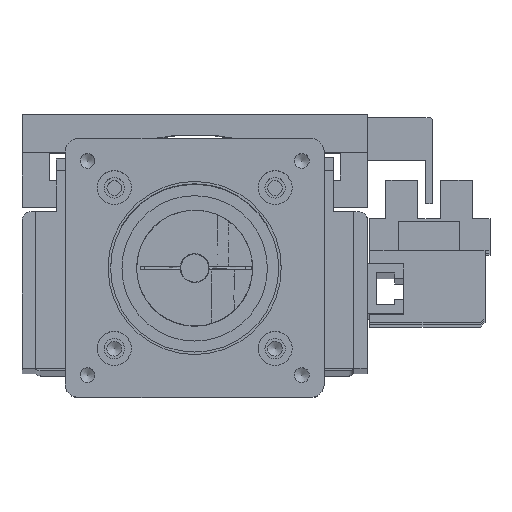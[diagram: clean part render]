
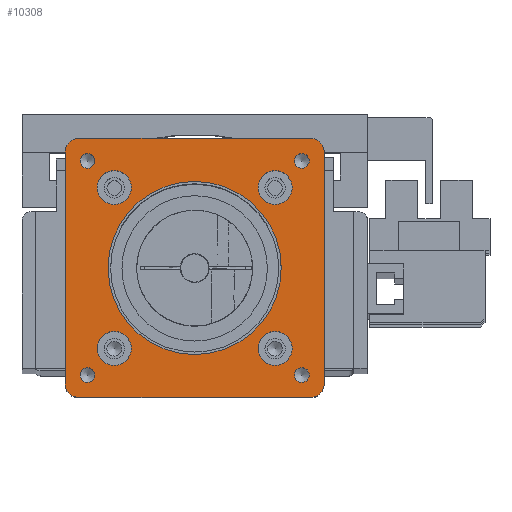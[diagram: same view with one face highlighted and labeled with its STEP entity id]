
A CAD part, top view. The second image highlights one B-rep face of the part: STEP entity #10308.
In plain terms, the highlighted planar face has unit normal (0, 0, 1).
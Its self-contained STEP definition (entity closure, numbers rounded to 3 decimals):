
#9948=CARTESIAN_POINT('',(53.691,4.93,0.0));
#9949=VERTEX_POINT('',#9948);
#9950=CARTESIAN_POINT('',(52.07,4.93,0.0));
#9951=DIRECTION('',(0.0,0.0,-1.0));
#9952=DIRECTION('',(1.0,0.0,0.0));
#9953=AXIS2_PLACEMENT_3D('',#9950,#9951,#9952);
#9954=CIRCLE('',#9953,1.621);
#9955=EDGE_CURVE('',#9949,#9949,#9954,.T.);
#9985=CARTESIAN_POINT('',(6.551,52.07,0.0));
#9986=VERTEX_POINT('',#9985);
#9987=CARTESIAN_POINT('',(4.93,52.07,0.0));
#9988=DIRECTION('',(0.0,0.0,-1.0));
#9989=DIRECTION('',(1.0,0.0,0.0));
#9990=AXIS2_PLACEMENT_3D('',#9987,#9988,#9989);
#9991=CIRCLE('',#9990,1.621);
#9992=EDGE_CURVE('',#9986,#9986,#9991,.T.);
#10022=CARTESIAN_POINT('',(53.691,52.07,0.0));
#10023=VERTEX_POINT('',#10022);
#10024=CARTESIAN_POINT('',(52.07,52.07,0.0));
#10025=DIRECTION('',(0.0,0.0,-1.0));
#10026=DIRECTION('',(1.0,0.0,0.0));
#10027=AXIS2_PLACEMENT_3D('',#10024,#10025,#10026);
#10028=CIRCLE('',#10027,1.621);
#10029=EDGE_CURVE('',#10023,#10023,#10028,.T.);
#10059=CARTESIAN_POINT('',(6.551,4.93,0.0));
#10060=VERTEX_POINT('',#10059);
#10061=CARTESIAN_POINT('',(4.93,4.93,0.0));
#10062=DIRECTION('',(0.0,0.0,-1.0));
#10063=DIRECTION('',(1.0,0.0,0.0));
#10064=AXIS2_PLACEMENT_3D('',#10061,#10062,#10063);
#10065=CIRCLE('',#10064,1.621);
#10066=EDGE_CURVE('',#10060,#10060,#10065,.T.);
#10090=CARTESIAN_POINT('',(0.0,54.0,0.0));
#10091=VERTEX_POINT('',#10090);
#10098=CARTESIAN_POINT('',(3.,57.0,0.0));
#10099=VERTEX_POINT('',#10098);
#10100=CARTESIAN_POINT('',(3.,54.0,0.0));
#10101=DIRECTION('',(0.0,0.0,-1.));
#10102=DIRECTION('',(-0.707,0.707,0.0));
#10103=AXIS2_PLACEMENT_3D('',#10100,#10101,#10102);
#10104=CIRCLE('',#10103,3.);
#10105=EDGE_CURVE('',#10091,#10099,#10104,.T.);
#10122=CARTESIAN_POINT('',(54.,57.,0.0));
#10123=VERTEX_POINT('',#10122);
#10124=CARTESIAN_POINT('',(54.,57.,0.0));
#10125=DIRECTION('',(-1.0,0.0,0.0));
#10126=VECTOR('',#10125,51.);
#10127=LINE('',#10124,#10126);
#10128=EDGE_CURVE('',#10123,#10099,#10127,.T.);
#10183=CARTESIAN_POINT('',(28.5,28.5,0.0));
#10184=DIRECTION('',(0.0,0.0,1.0));
#10185=DIRECTION('',(1.0,0.0,0.0));
#10186=AXIS2_PLACEMENT_3D('',#10183,#10184,#10185);
#10187=PLANE('',#10186);
#10188=ORIENTED_EDGE('',*,*,#10105,.F.);
#10189=CARTESIAN_POINT('',(0.0,3.,0.0));
#10190=VERTEX_POINT('',#10189);
#10191=CARTESIAN_POINT('',(0.0,54.0,0.0));
#10192=DIRECTION('',(0.0,-1.0,0.0));
#10193=VECTOR('',#10192,51.0);
#10194=LINE('',#10191,#10193);
#10195=EDGE_CURVE('',#10091,#10190,#10194,.T.);
#10196=ORIENTED_EDGE('',*,*,#10195,.T.);
#10197=CARTESIAN_POINT('',(3.,0.0,0.0));
#10198=VERTEX_POINT('',#10197);
#10199=CARTESIAN_POINT('',(3.,3.,0.0));
#10200=DIRECTION('',(0.0,0.0,-1.));
#10201=DIRECTION('',(-0.707,-0.707,0.0));
#10202=AXIS2_PLACEMENT_3D('',#10199,#10200,#10201);
#10203=CIRCLE('',#10202,3.);
#10204=EDGE_CURVE('',#10198,#10190,#10203,.T.);
#10205=ORIENTED_EDGE('',*,*,#10204,.F.);
#10206=CARTESIAN_POINT('',(54.0,0.0,0.0));
#10207=VERTEX_POINT('',#10206);
#10208=CARTESIAN_POINT('',(3.,0.0,0.0));
#10209=DIRECTION('',(1.0,0.0,0.0));
#10210=VECTOR('',#10209,51.0);
#10211=LINE('',#10208,#10210);
#10212=EDGE_CURVE('',#10198,#10207,#10211,.T.);
#10213=ORIENTED_EDGE('',*,*,#10212,.T.);
#10214=CARTESIAN_POINT('',(57.0,3.,0.0));
#10215=VERTEX_POINT('',#10214);
#10216=CARTESIAN_POINT('',(54.0,3.,0.0));
#10217=DIRECTION('',(0.0,0.0,-1.));
#10218=DIRECTION('',(0.707,-0.707,0.0));
#10219=AXIS2_PLACEMENT_3D('',#10216,#10217,#10218);
#10220=CIRCLE('',#10219,3.);
#10221=EDGE_CURVE('',#10215,#10207,#10220,.T.);
#10222=ORIENTED_EDGE('',*,*,#10221,.F.);
#10223=CARTESIAN_POINT('',(57.,54.,0.0));
#10224=VERTEX_POINT('',#10223);
#10225=CARTESIAN_POINT('',(57.0,3.,0.0));
#10226=DIRECTION('',(0.0,1.0,0.0));
#10227=VECTOR('',#10226,51.);
#10228=LINE('',#10225,#10227);
#10229=EDGE_CURVE('',#10215,#10224,#10228,.T.);
#10230=ORIENTED_EDGE('',*,*,#10229,.T.);
#10231=CARTESIAN_POINT('',(54.,54.,0.0));
#10232=DIRECTION('',(0.0,0.0,-1.));
#10233=DIRECTION('',(0.707,0.707,0.0));
#10234=AXIS2_PLACEMENT_3D('',#10231,#10232,#10233);
#10235=CIRCLE('',#10234,3.);
#10236=EDGE_CURVE('',#10123,#10224,#10235,.T.);
#10237=ORIENTED_EDGE('',*,*,#10236,.F.);
#10238=ORIENTED_EDGE('',*,*,#10128,.T.);
#10239=EDGE_LOOP('',(#10188,#10196,#10205,#10213,#10222,#10230,#10237,#10238));
#10240=FACE_OUTER_BOUND('',#10239,.T.);
#10241=ORIENTED_EDGE('',*,*,#9955,.T.);
#10242=EDGE_LOOP('',(#10241));
#10243=FACE_BOUND('',#10242,.T.);
#10244=ORIENTED_EDGE('',*,*,#9992,.T.);
#10245=EDGE_LOOP('',(#10244));
#10246=FACE_BOUND('',#10245,.T.);
#10247=ORIENTED_EDGE('',*,*,#10029,.T.);
#10248=EDGE_LOOP('',(#10247));
#10249=FACE_BOUND('',#10248,.T.);
#10250=ORIENTED_EDGE('',*,*,#10066,.T.);
#10251=EDGE_LOOP('',(#10250));
#10252=FACE_BOUND('',#10251,.T.);
#10253=CARTESIAN_POINT('',(49.95,10.8,0.0));
#10254=VERTEX_POINT('',#10253);
#10255=CARTESIAN_POINT('',(46.2,10.8,0.0));
#10256=DIRECTION('',(0.0,0.0,-1.0));
#10257=DIRECTION('',(1.0,0.0,0.0));
#10258=AXIS2_PLACEMENT_3D('',#10255,#10256,#10257);
#10259=CIRCLE('',#10258,3.75);
#10260=EDGE_CURVE('',#10254,#10254,#10259,.T.);
#10261=ORIENTED_EDGE('',*,*,#10260,.T.);
#10262=EDGE_LOOP('',(#10261));
#10263=FACE_BOUND('',#10262,.T.);
#10264=CARTESIAN_POINT('',(14.55,46.2,0.0));
#10265=VERTEX_POINT('',#10264);
#10266=CARTESIAN_POINT('',(10.8,46.2,0.0));
#10267=DIRECTION('',(0.0,0.0,-1.0));
#10268=DIRECTION('',(1.0,0.0,0.0));
#10269=AXIS2_PLACEMENT_3D('',#10266,#10267,#10268);
#10270=CIRCLE('',#10269,3.75);
#10271=EDGE_CURVE('',#10265,#10265,#10270,.T.);
#10272=ORIENTED_EDGE('',*,*,#10271,.T.);
#10273=EDGE_LOOP('',(#10272));
#10274=FACE_BOUND('',#10273,.T.);
#10275=CARTESIAN_POINT('',(14.55,10.8,0.0));
#10276=VERTEX_POINT('',#10275);
#10277=CARTESIAN_POINT('',(10.8,10.8,0.0));
#10278=DIRECTION('',(0.0,0.0,-1.0));
#10279=DIRECTION('',(1.0,0.0,0.0));
#10280=AXIS2_PLACEMENT_3D('',#10277,#10278,#10279);
#10281=CIRCLE('',#10280,3.75);
#10282=EDGE_CURVE('',#10276,#10276,#10281,.T.);
#10283=ORIENTED_EDGE('',*,*,#10282,.T.);
#10284=EDGE_LOOP('',(#10283));
#10285=FACE_BOUND('',#10284,.T.);
#10286=CARTESIAN_POINT('',(49.95,46.2,0.0));
#10287=VERTEX_POINT('',#10286);
#10288=CARTESIAN_POINT('',(46.2,46.2,0.0));
#10289=DIRECTION('',(0.0,0.0,-1.0));
#10290=DIRECTION('',(1.0,0.0,0.0));
#10291=AXIS2_PLACEMENT_3D('',#10288,#10289,#10290);
#10292=CIRCLE('',#10291,3.75);
#10293=EDGE_CURVE('',#10287,#10287,#10292,.T.);
#10294=ORIENTED_EDGE('',*,*,#10293,.T.);
#10295=EDGE_LOOP('',(#10294));
#10296=FACE_BOUND('',#10295,.T.);
#10297=CARTESIAN_POINT('',(47.55,28.5,0.0));
#10298=VERTEX_POINT('',#10297);
#10299=CARTESIAN_POINT('',(28.5,28.5,0.0));
#10300=DIRECTION('',(0.0,0.0,-1.0));
#10301=DIRECTION('',(-1.0,0.0,0.0));
#10302=AXIS2_PLACEMENT_3D('',#10299,#10300,#10301);
#10303=CIRCLE('',#10302,19.05);
#10304=EDGE_CURVE('',#10298,#10298,#10303,.T.);
#10305=ORIENTED_EDGE('',*,*,#10304,.T.);
#10306=EDGE_LOOP('',(#10305));
#10307=FACE_BOUND('',#10306,.T.);
#10308=ADVANCED_FACE('',(#10240,#10243,#10246,#10249,#10252,#10263,#10274,#10285,#10296,#10307),#10187,.T.);
